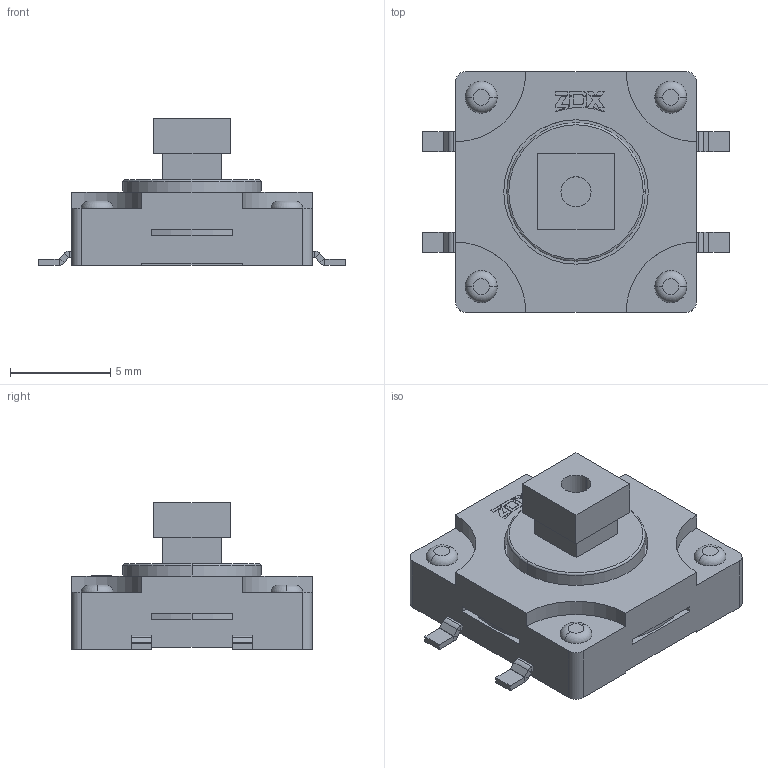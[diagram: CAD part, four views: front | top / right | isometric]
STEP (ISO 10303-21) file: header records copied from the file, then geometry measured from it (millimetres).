
FILE_DESCRIPTION((''),'2;1');
FILE_NAME('ASM0008_ASM','2024-01-04T',('WYH'),(''),'PRO/ENGINEER BY PARAMETRIC TECHNOLOGY CORPORATION, 2013040','PRO/ENGINEER BY PARAMETRIC TECHNOLOGY CORPORATION, 2013040','');
FILE_SCHEMA(('CONFIG_CONTROL_DESIGN'));
Length unit declared in the file: millimetre
Products named in the file (1): ASM0008_ASM
Bounding box: 15.3 x 12 x 7.3 mm (x, y, z)
Volume: 477.1 mm3; surface area: 1038.7 mm2
Topology: 1 solids, 8 shells, 353 faces, 852 edges, 538 vertices
Faces by surface type: plane 227, cylinder 84, torus 32, bspline 8, cone 2
Entity records: 10510 total; most frequent: CARTESIAN_POINT 2045, DIRECTION 1784, ORIENTED_EDGE 1704, EDGE_CURVE 852, AXIS2_PLACEMENT_3D 595, VECTOR 594, LINE 594, VERTEX_POINT 538
